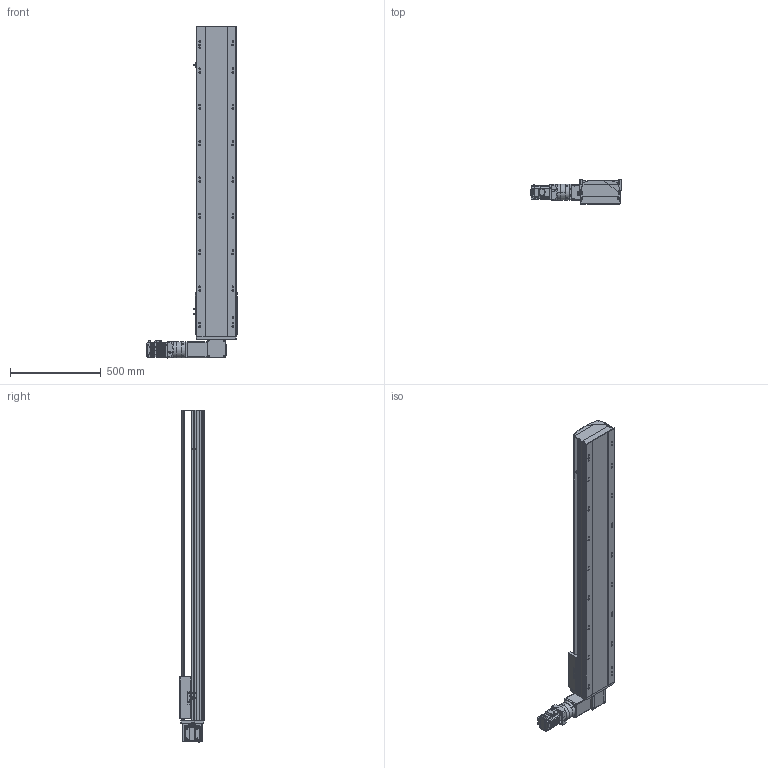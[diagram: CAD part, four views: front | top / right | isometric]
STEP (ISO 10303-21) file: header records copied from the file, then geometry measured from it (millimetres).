
FILE_DESCRIPTION (( 'STEP AP214' ), '1' );
FILE_NAME ('TPT22M-L100-1350-LT-PRF90-C4.STEP', '2023-04-12T06:39:32', ( '' ), ( '' ), 'SwSTEP 2.0', 'SolidWorks 2020', '' );
FILE_SCHEMA (( 'AUTOMOTIVE_DESIGN' ));
Length unit declared in the file: millimetre
Products named in the file (16): 葩璃 pm-t65-672^TPT22M-L100-LT-PRF90-C4; 葩璃 PRF90 ______-_____D8-70 D9-90 D10-M5 A2-90 L4-32 L6-47(32+15) L7-6 R-59.5____.STEP^葩璃 PRF90-L1_TPT22M-L100-LT-PRF90-C4; 葩璃 MSMD08PC_P75^TPT22M-L100-LT-PRF90-C4; TPT22M-L100-1350-LT-PRF90-C4; 葩璃 TPT22-L-007 々湍釱^TPT22M-L100-LT-PRF90-C4; 葩璃 ____-6007 35x62x14.STEP^葩璃 PRF90-L1_TPT22M-L100-LT-PRF90-C4; 葩璃 ______ 6x6x25.STEP^葩璃 PRF90-L1_TPT22M-L100-LT-PRF90-C4; 葩璃 PRF90 ___w___D6-90 D7-19 ____.STEP^葩璃 PRF90-L1_TPT22M-L100-LT-PRF90-C4; 葩璃 PRF90-L1^TPT22M-L100-LT-PRF90-C4; 葩璃 PRF90 ___w_______.STEP^葩璃 PRF90-L1_TPT22M-L100-LT-PRF90-C4; 葩璃 TPT22-L-001 菁釱MZ-220-01^TPT22M-L100-LT-PRF90-C4; 葩璃 萇儂釱 TPT22M^TPT22M-L100-LT-PRF90-C4; 葩璃 __________ M6x20.STEP^葩璃 PRF90-L1_TPT22M-L100-LT-PRF90-C4; 葩璃 PRF90 ______-_______________.STEP^葩璃 PRF90-L1_TPT22M-L100-LT-PRF90-C4; 葩璃 TPT22-L-002 奻裔MZ-220-02^TPT22M-L100-LT-PRF90-C4; 葩璃 TPT22-L-005 賑釱MZ-220-03^TPT22M-L100-LT-PRF90-C4
Assembly tree (17 placements, depth 3):
  TPT22M-L100-1350-LT-PRF90-C4
    葩璃 TPT22-L-001 菁釱MZ-220-01^TPT22M-L100-LT-PRF90-C4
    葩璃 TPT22-L-002 奻裔MZ-220-02^TPT22M-L100-LT-PRF90-C4
    葩璃 TPT22-L-005 賑釱MZ-220-03^TPT22M-L100-LT-PRF90-C4
    葩璃 TPT22-L-007 々湍釱^TPT22M-L100-LT-PRF90-C4
    葩璃 pm-t65-672^TPT22M-L100-LT-PRF90-C4  x3
    葩璃 萇儂釱 TPT22M^TPT22M-L100-LT-PRF90-C4
    葩璃 MSMD08PC_P75^TPT22M-L100-LT-PRF90-C4
    葩璃 PRF90-L1^TPT22M-L100-LT-PRF90-C4
      葩璃 PRF90 ______-_____D8-70 D9-90 D10-M5 A2-90 L4-32 L6-47(32+15) L7-6 R-59.5____.STEP^葩璃 PRF90-L1_TPT22M-L100-LT-PRF90-C4
      葩璃 PRF90 ______-_______________.STEP^葩璃 PRF90-L1_TPT22M-L100-LT-PRF90-C4
      葩璃 PRF90 ___w_______.STEP^葩璃 PRF90-L1_TPT22M-L100-LT-PRF90-C4
      葩璃 PRF90 ___w___D6-90 D7-19 ____.STEP^葩璃 PRF90-L1_TPT22M-L100-LT-PRF90-C4
      葩璃 __________ M6x20.STEP^葩璃 PRF90-L1_TPT22M-L100-LT-PRF90-C4
      葩璃 ______ 6x6x25.STEP^葩璃 PRF90-L1_TPT22M-L100-LT-PRF90-C4
      葩璃 ____-6007 35x62x14.STEP^葩璃 PRF90-L1_TPT22M-L100-LT-PRF90-C4
Bounding box: 497 x 134 x 1827 mm (x, y, z)
Volume: 25949661.6 mm3; surface area: 2686194.4 mm2
Topology: 21 solids, 21 shells, 2341 faces, 6295 edges, 4021 vertices
Faces by surface type: plane 1134, cylinder 865, cone 144, sphere 132, torus 52, bspline 14
Entity records: 75734 total; most frequent: CARTESIAN_POINT 18691, DIRECTION 11247, ORIENTED_EDGE 10934, EDGE_CURVE 5467, AXIS2_PLACEMENT_3D 4114, VERTEX_POINT 3571, VECTOR 3019, LINE 3019
